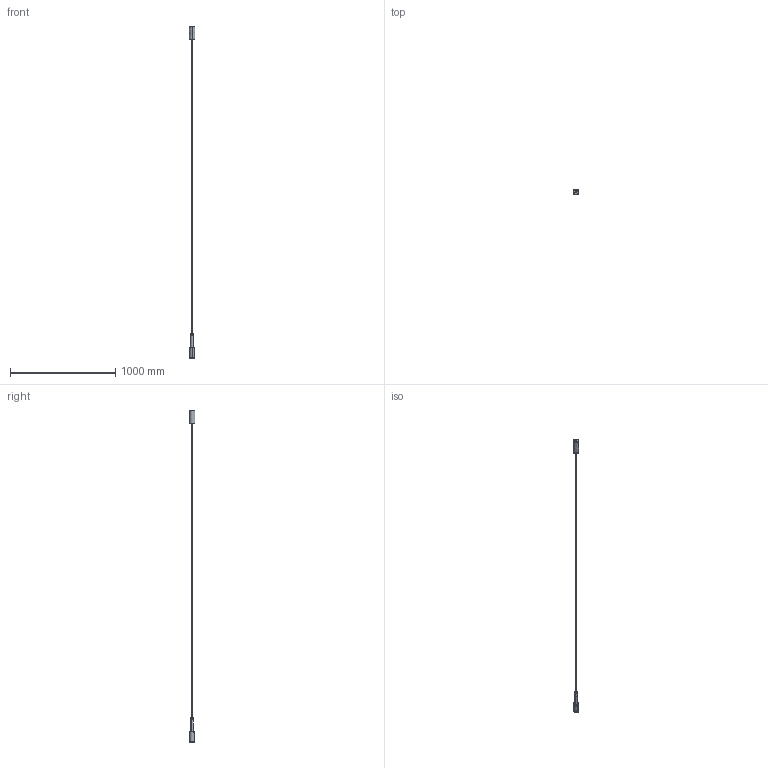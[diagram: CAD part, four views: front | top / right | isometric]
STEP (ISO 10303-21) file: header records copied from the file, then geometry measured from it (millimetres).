
FILE_DESCRIPTION(/* description */ (''),/* implementation_level */ '2;1');
FILE_NAME(/* name */ 'Tubino L073__.001',/* time_stamp */ '2025-05-27T15:16:08+02:00',/* author */ (''),/* organization */ (''),/* preprocessor_version */ 'ST-DEVELOPER v16.5',/* originating_system */ '',/* authorisation */ '');
FILE_SCHEMA (('AUTOMOTIVE_DESIGN'));
Length unit declared in the file: millimetre
Products named in the file (11): Document; 3300.0138000.00 (testa cilindrica ALL D 40mm H 100mm)_3306.0138000.00; 3100.0005000.00 (schermo circolare PC sp 0,5)_3104.0005003.00; 3300.0139000.00 (tubo supporto testa ALL D 22mm H 146mm sp 1,5)_3305.
0139003.00; 3300.0034000.00 (testata di chiusura ALL Ø 20mm H 9mm)_3306.00340
04.00; 3300.0250000.00 (tubo rosone ALL D 55mm sp 2)_3306.0250013.00; 3200.0075000.00 (staffa rosone ACC D 50,7mm H 126,2mm sp 1,2)_3210.00
75000.00 in opera 2; 3200.0021000.00 (testata rosone ACC D 50,7mm sp 1,2)_3201.0021000.00; 3200.0020000.00 (staffa rosone ACC 50x44x125mm sp 1,2)_3209.0020000.0
0 in opera 1; 4504.0004000.00 (passacavo D int. 5,9mm L 10,5mm Steab 5101)_4504.000
4000.00; 5205.0001010.00 (raccordo fresato OTTONE D 12mm sp 3 gambo H 10mm M10
x1 Sacla 13501)_5205.0001010.00
Assembly tree (10 placements, depth 3):
  Document
    3300.0138000.00 (testa cilindrica ALL D 40mm H 100mm)_3306.0138000.00
    3100.0005000.00 (schermo circolare PC sp 0,5)_3104.0005003.00
    3300.0139000.00 (tubo supporto testa ALL D 22mm H 146mm sp 1,5)_3305.
0139003.00
    3300.0034000.00 (testata di chiusura ALL Ø 20mm H 9mm)_3306.00340
04.00
    3300.0250000.00 (tubo rosone ALL D 55mm sp 2)_3306.0250013.00
    3200.0075000.00 (staffa rosone ACC D 50,7mm H 126,2mm sp 1,2)_3210.00
75000.00 in opera 2
      3200.0021000.00 (testata rosone ACC D 50,7mm sp 1,2)_3201.0021000.00
      3200.0020000.00 (staffa rosone ACC 50x44x125mm sp 1,2)_3209.0020000.0
0 in opera 1
    4504.0004000.00 (passacavo D int. 5,9mm L 10,5mm Steab 5101)_4504.000
4000.00
    5205.0001010.00 (raccordo fresato OTTONE D 12mm sp 3 gambo H 10mm M10
x1 Sacla 13501)_5205.0001010.00
Bounding box: 55 x 55 x 3147.7 mm (x, y, z)
Volume: 125951.5 mm3; surface area: 166332.9 mm2
Topology: 10 solids, 10 shells, 507 faces, 1314 edges, 834 vertices
Faces by surface type: bspline 356, plane 151
Entity records: 46469 total; most frequent: CARTESIAN_POINT 38558, ORIENTED_EDGE 2628, EDGE_CURVE 1314, VERTEX_POINT 834, B_SPLINE_CURVE_WITH_KNOTS 696, EDGE_LOOP 562, ADVANCED_FACE 507, FACE_OUTER_BOUND 507
